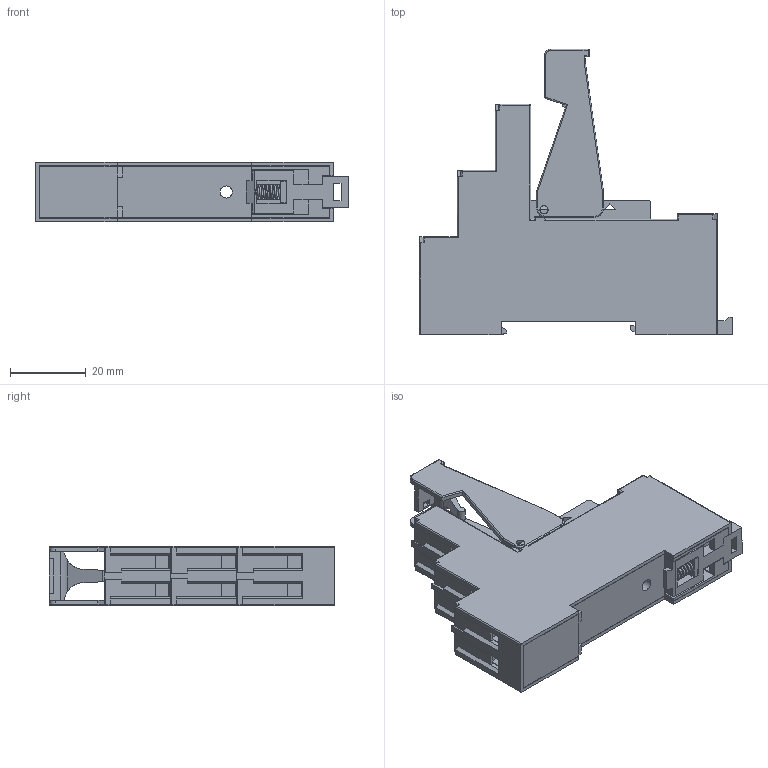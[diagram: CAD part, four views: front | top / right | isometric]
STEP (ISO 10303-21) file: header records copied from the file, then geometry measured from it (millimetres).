
FILE_DESCRIPTION(/* description */ (''),/* implementation_level */ '2;1');
FILE_NAME(/* name */ 'C:\Desktop\95.05_with_095.01.stp',/* time_stamp */ '2016-07-04T11:21:59+02:00',/* author */ ('marco'),/* organization */ (''),/* preprocessor_version */ 'ST-DEVELOPER v16.1',/* originating_system */ 'Autodesk Inventor 2016',/* authorisation */ '');
FILE_SCHEMA (('AUTOMOTIVE_DESIGN { 1 0 10303 214 3 1 1 }'));
Length unit declared in the file: millimetre
Products named in the file (8): 95.05; EF00625; EF00137; EF00175-B non completo; EF00345-M3; Assieme morsetto+vite; leva 095.01; 95.05_1
Assembly tree (14 placements, depth 3):
  95.05_1
    95.05
    EF00625
    EF00137
    Assieme morsetto+vite  x8
      EF00175-B non completo
      EF00345-M3
    leva 095.01
Bounding box: 82.8 x 75.4 x 15.8 mm (x, y, z)
Volume: 40432.1 mm3; surface area: 24750.1 mm2
Topology: 20 solids, 20 shells, 920 faces, 2388 edges, 1528 vertices
Faces by surface type: plane 739, cylinder 152, sphere 14, cone 8, torus 6, bspline 1
Full cylindrical faces by diameter (mm): 2 x3, 2.2 x10, 2.6 x8, 3 x16, 3.2 x1, 4.7 x8, 5 x8
Entity records: 20079 total; most frequent: CARTESIAN_POINT 4415, ORIENTED_EDGE 3216, DIRECTION 3116, EDGE_CURVE 1608, LINE 1384, VECTOR 1384, VERTEX_POINT 1041, AXIS2_PLACEMENT_3D 866
